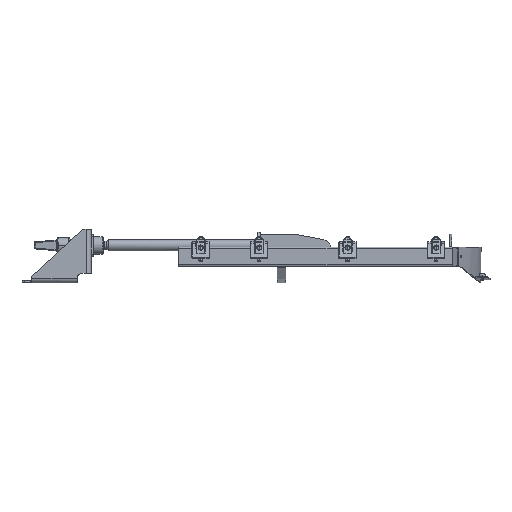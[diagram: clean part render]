
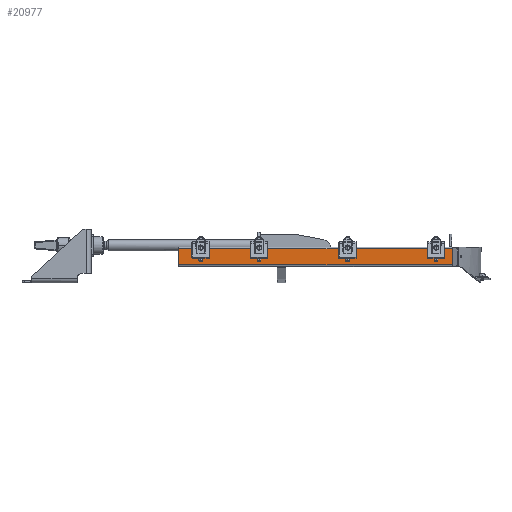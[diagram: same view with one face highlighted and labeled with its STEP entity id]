
A CAD part, left-side view. The second image highlights one B-rep face of the part: STEP entity #20977.
In plain terms, the highlighted planar face has unit normal (-1, 0, 0).
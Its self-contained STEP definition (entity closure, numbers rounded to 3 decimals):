
#367 = DIRECTION ( 'NONE',  ( 0., 0., 1. ) ) ;
#741 = PLANE ( 'NONE',  #41152 ) ;
#2178 = VERTEX_POINT ( 'NONE', #53770 ) ;
#5614 = ORIENTED_EDGE ( 'NONE', *, *, #41286, .F. ) ;
#5771 = CARTESIAN_POINT ( 'NONE',  ( -215.05, -34.207, 40. ) ) ;
#5869 = EDGE_CURVE ( 'NONE', #47493, #2178, #45397, .T. ) ;
#8584 = CARTESIAN_POINT ( 'NONE',  ( -215.05, -34.207, 4. ) ) ;
#11183 = CARTESIAN_POINT ( 'NONE',  ( -215.05, 50.869, 4. ) ) ;
#11595 = DIRECTION ( 'NONE',  ( -1., 0., 0. ) ) ;
#11866 = LINE ( 'NONE', #27533, #40586 ) ;
#13416 = ORIENTED_EDGE ( 'NONE', *, *, #39075, .T. ) ;
#18084 = ORIENTED_EDGE ( 'NONE', *, *, #52166, .T. ) ;
#20674 = DIRECTION ( 'NONE',  ( 0., 1., 0. ) ) ;
#20768 = CARTESIAN_POINT ( 'NONE',  ( -215.05, -34.207, 40. ) ) ;
#20977 = ADVANCED_FACE ( 'NONE', ( #31380 ), #741, .T. ) ;
#23035 = CARTESIAN_POINT ( 'NONE',  ( -215.05, 50.869, 40. ) ) ;
#23953 = VERTEX_POINT ( 'NONE', #45444 ) ;
#25071 = VECTOR ( 'NONE', #30085, 1000. ) ;
#27480 = ORIENTED_EDGE ( 'NONE', *, *, #5869, .F. ) ;
#27533 = CARTESIAN_POINT ( 'NONE',  ( -215.05, 669.205, 40. ) ) ;
#30085 = DIRECTION ( 'NONE',  ( 0., 1., 0. ) ) ;
#31380 = FACE_OUTER_BOUND ( 'NONE', #51671, .T. ) ;
#31673 = LINE ( 'NONE', #46636, #38090 ) ;
#32296 = DIRECTION ( 'NONE',  ( 0., 0., 1. ) ) ;
#32372 = DIRECTION ( 'NONE',  ( 0., 0., 1. ) ) ;
#38090 = VECTOR ( 'NONE', #367, 1000. ) ;
#39075 = EDGE_CURVE ( 'NONE', #60645, #23953, #56739, .T. ) ;
#40586 = VECTOR ( 'NONE', #32296, 1000. ) ;
#41152 = AXIS2_PLACEMENT_3D ( 'NONE', #20768, #11595, #32372 ) ;
#41286 = EDGE_CURVE ( 'NONE', #2178, #23953, #11866, .T. ) ;
#45397 = LINE ( 'NONE', #8584, #25071 ) ;
#45444 = CARTESIAN_POINT ( 'NONE',  ( -215.05, 669.205, 40. ) ) ;
#46636 = CARTESIAN_POINT ( 'NONE',  ( -215.05, 50.869, 0. ) ) ;
#47493 = VERTEX_POINT ( 'NONE', #11183 ) ;
#51671 = EDGE_LOOP ( 'NONE', ( #27480, #18084, #13416, #5614 ) ) ;
#52166 = EDGE_CURVE ( 'NONE', #47493, #60645, #31673, .T. ) ;
#53770 = CARTESIAN_POINT ( 'NONE',  ( -215.05, 669.205, 4. ) ) ;
#56739 = LINE ( 'NONE', #5771, #64154 ) ;
#60645 = VERTEX_POINT ( 'NONE', #23035 ) ;
#64154 = VECTOR ( 'NONE', #20674, 1000. ) ;
